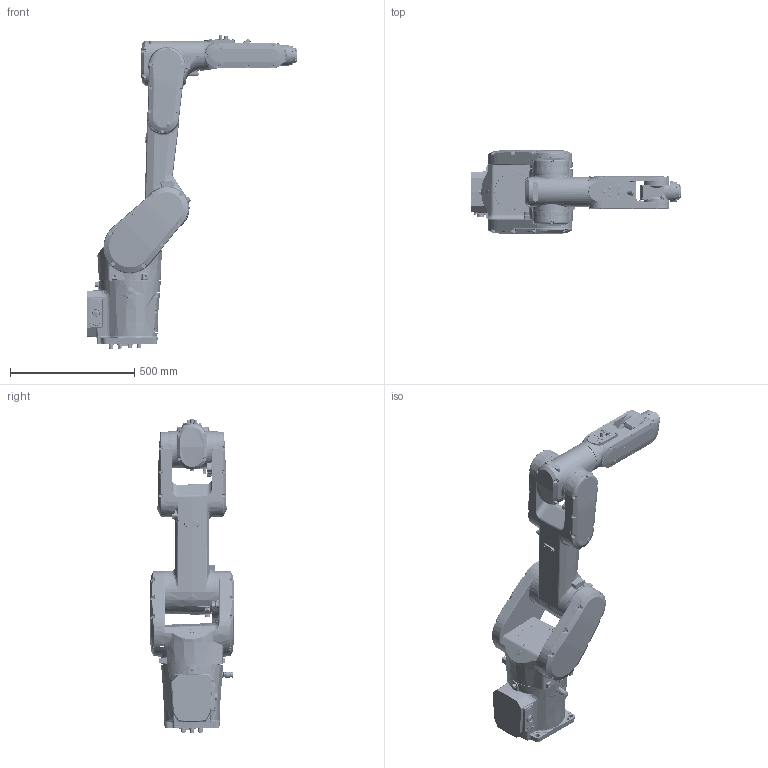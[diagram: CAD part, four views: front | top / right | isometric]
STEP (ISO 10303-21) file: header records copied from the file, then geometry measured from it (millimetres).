
FILE_DESCRIPTION (( 'STEP AP214' ), '1' );
FILE_NAME ('IRB1300 Type A_10Kg-1150-IP40IP67CR-BTM_OC_00_asm.STEP', '2026-05-19T12:35:35', ( '' ), ( '' ), 'SwSTEP 2.0', 'SolidWorks 2024', '' );
FILE_SCHEMA (( 'AUTOMOTIVE_DESIGN' ));
Length unit declared in the file: millimetre
Products named in the file (8): IRB1300 Type A_10Kg-1150-IP40IP67CR-BTM_OC_00_link0; IRB1300 Type A_10Kg-1150-IP40IP67CR-BTM_OC_00_link5; IRB1300 Type A_10Kg-1150-IP40IP67CR-BTM_OC_00_link6; IRB1300 Type A_10Kg-1150-IP40IP67CR-BTM_OC_00_link4; IRB1300 Type A_10Kg-1150-IP40IP67CR-BTM_OC_00_link2; IRB1300 Type A_10Kg-1150-IP40IP67CR-BTM_OC_00_link1; IRB1300 Type A_10Kg-1150-IP40IP67CR-BTM_OC_00_asm; IRB1300 Type A_10Kg-1150-IP40IP67CR-BTM_OC_00_link3
Assembly tree (7 placements, depth 2):
  IRB1300 Type A_10Kg-1150-IP40IP67CR-BTM_OC_00_asm
    IRB1300 Type A_10Kg-1150-IP40IP67CR-BTM_OC_00_link0
    IRB1300 Type A_10Kg-1150-IP40IP67CR-BTM_OC_00_link1
    IRB1300 Type A_10Kg-1150-IP40IP67CR-BTM_OC_00_link2
    IRB1300 Type A_10Kg-1150-IP40IP67CR-BTM_OC_00_link3
    IRB1300 Type A_10Kg-1150-IP40IP67CR-BTM_OC_00_link4
    IRB1300 Type A_10Kg-1150-IP40IP67CR-BTM_OC_00_link5
    IRB1300 Type A_10Kg-1150-IP40IP67CR-BTM_OC_00_link6
Bounding box: 846.5 x 340 x 1261.73 mm (x, y, z)
Volume: 53547075.6 mm3; surface area: 2001382.9 mm2
Topology: 7 solids, 18 shells, 7182 faces, 17562 edges, 10700 vertices
Faces by surface type: plane 2070, bspline 2019, cylinder 1752, cone 629, torus 572, sphere 140
Entity records: 331319 total; most frequent: CARTESIAN_POINT 178176, ORIENTED_EDGE 34744, DIRECTION 27608, EDGE_CURVE 17372, VERTEX_POINT 10695, AXIS2_PLACEMENT_3D 10615, EDGE_LOOP 7663, FACE_OUTER_BOUND 7182
